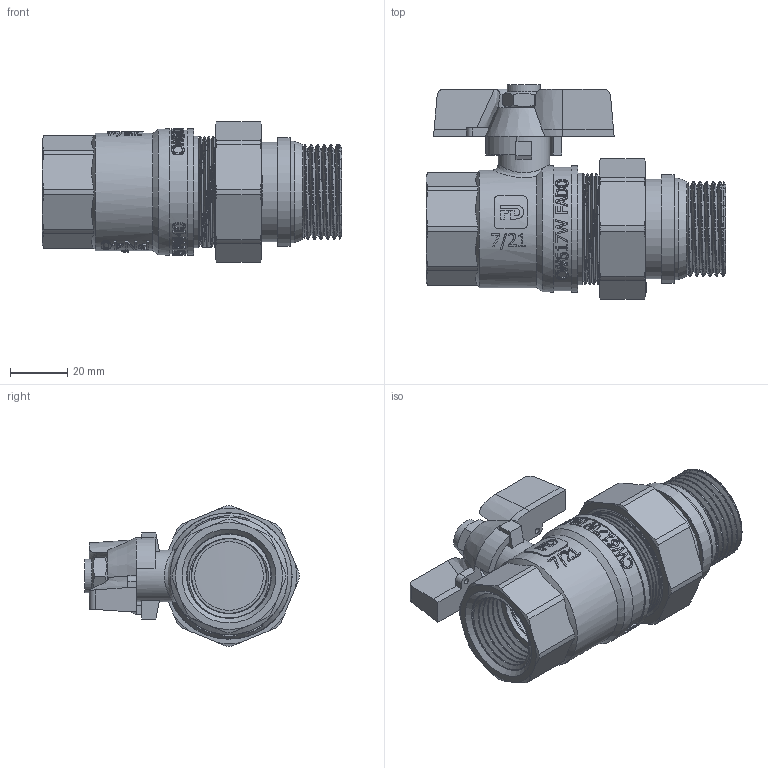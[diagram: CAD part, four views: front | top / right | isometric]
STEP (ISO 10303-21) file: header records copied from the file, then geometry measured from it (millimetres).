
FILE_DESCRIPTION(/* description */ (''),/* implementation_level */ '2;1');
FILE_NAME(/* name */ 'C:\Users\Doom\Desktop\Фадотех\KA3 08.11.2021\КА3 08.11.21.stp',/* time_stamp */ '2021-12-02T00:12:14+02:00',/* author */ ('Doom'),/* organization */ (''),/* preprocessor_version */ 'ST-DEVELOPER v18',/* originating_system */ 'Autodesk Inventor 2020',/* authorisation */ '');
FILE_SCHEMA (('AUTOMOTIVE_DESIGN { 1 0 10303 214 3 1 1 }'));
Length unit declared in the file: millimetre
Products named in the file (12): КА3 08.11.21; 5010501048005; KA2 08.11.2021; 22208287; KA1 08.11.2021; 20642011; KA2 08.11.2021_1; KA2 08.11.2021_2; KA2 08.11.2021_3; 27032113; KA2 08.11.2021_4; DIN 985 - M8
Assembly tree (11 placements, depth 2):
  КА3 08.11.21
    5010501048005
    KA2 08.11.2021
    22208287
    KA1 08.11.2021
    20642011
    KA2 08.11.2021_1
    KA2 08.11.2021_2
    KA2 08.11.2021_3
    27032113
    KA2 08.11.2021_4
    DIN 985 - M8
Bounding box: 104.4 x 74.8 x 49 mm (x, y, z)
Volume: 85661.2 mm3; surface area: 75388.9 mm2
Topology: 21 solids, 21 shells, 2168 faces, 6236 edges, 4185 vertices
Faces by surface type: plane 1095, bspline 669, cylinder 337, cone 57, torus 9, sphere 1
Full cylindrical faces by diameter (mm): 2 x2, 6.647 x1, 9.5 x1, 9.7 x2, 10.776 x3, 11 x1, 11.6 x1, 12 x1, 12.5 x1, 12.517 x2, 13 x2, 14 x3, 18 x1, 19.5 x1, 21 x1, 24 x3, 26 x1, 26.042 x6, 28 x1, 29.466 x2, 29.826 x2, 30.5 x1, 31 x1, 32 x2, 32.1 x1, 33 x2, 33.5 x1, 33.6 x1, 34.8 x1, 35 x1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
Entity records: 121126 total; most frequent: CARTESIAN_POINT 71845, ORIENTED_EDGE 12456, DIRECTION 6651, EDGE_CURVE 6228, VERTEX_POINT 4182, B_SPLINE_CURVE_WITH_KNOTS 3142, EDGE_LOOP 2290, AXIS2_PLACEMENT_3D 2269
